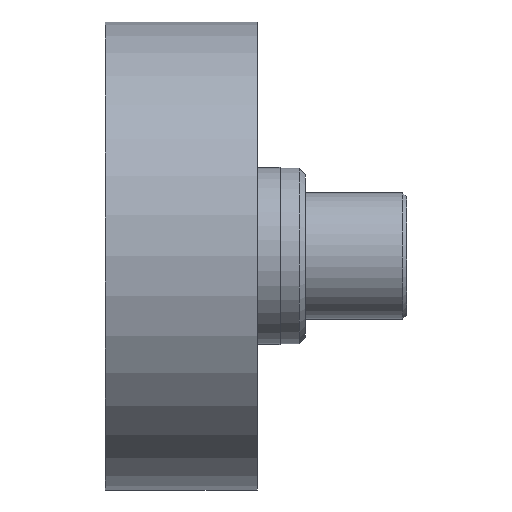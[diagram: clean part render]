
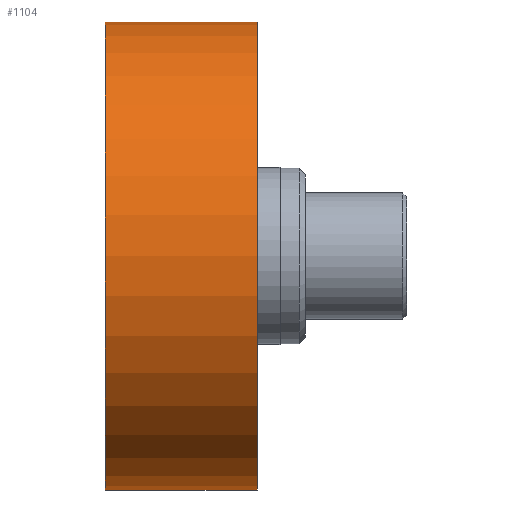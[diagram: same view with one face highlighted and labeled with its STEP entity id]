
A CAD part, top view. The second image highlights one B-rep face of the part: STEP entity #1104.
In plain terms, the highlighted cylindrical face has radius 18.5 mm (diameter 37 mm), a partial arc.
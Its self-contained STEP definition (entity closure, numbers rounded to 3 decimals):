
#7=CARTESIAN_POINT('',(0.,0.,0.));
#8=DIRECTION('',(1.,0.,0.));
#9=DIRECTION('',(0.,1.,0.));
#10=AXIS2_PLACEMENT_3D('',#7,#8,#9);
#22=DIRECTION('',(1.,0.,0.));
#23=VECTOR('',#22,12.);
#24=CARTESIAN_POINT('',(0.,-18.5,0.));
#25=LINE('',#24,#23);
#26=DIRECTION('',(1.,0.,0.));
#27=VECTOR('',#26,12.);
#28=CARTESIAN_POINT('',(0.,18.5,0.));
#29=LINE('',#28,#27);
#35=CARTESIAN_POINT('',(12.,0.,0.));
#36=DIRECTION('',(1.,0.,0.));
#37=DIRECTION('',(0.,1.,0.));
#38=AXIS2_PLACEMENT_3D('',#35,#36,#37);
#877=CARTESIAN_POINT('',(0.,-18.5,0.));
#878=CARTESIAN_POINT('',(0.,18.5,0.));
#879=VERTEX_POINT('',#877);
#880=VERTEX_POINT('',#878);
#881=CARTESIAN_POINT('',(12.,-18.5,0.));
#882=CARTESIAN_POINT('',(12.,18.5,0.));
#883=VERTEX_POINT('',#881);
#884=VERTEX_POINT('',#882);
#1092=CARTESIAN_POINT('',(0.,0.,0.));
#1093=DIRECTION('',(1.,0.,0.));
#1094=DIRECTION('',(0.,-1.,0.));
#1095=AXIS2_PLACEMENT_3D('',#1092,#1093,#1094);
#1096=CYLINDRICAL_SURFACE('',#1095,18.5);
#1097=ORIENTED_EDGE('',*,*,#1066,.F.);
#1098=ORIENTED_EDGE('',*,*,#1087,.T.);
#1100=ORIENTED_EDGE('',*,*,#1099,.T.);
#1101=ORIENTED_EDGE('',*,*,#1083,.F.);
#1102=EDGE_LOOP('',(#1097,#1098,#1100,#1101));
#1103=FACE_OUTER_BOUND('',#1102,.F.);
#1104=ADVANCED_FACE('',(#1103),#1096,.T.);
#11=CIRCLE('',#10,18.5);
#39=CIRCLE('',#38,18.5);
#1066=EDGE_CURVE('',#880,#879,#11,.T.);
#1083=EDGE_CURVE('',#879,#883,#25,.T.);
#1087=EDGE_CURVE('',#880,#884,#29,.T.);
#1099=EDGE_CURVE('',#884,#883,#39,.T.);
